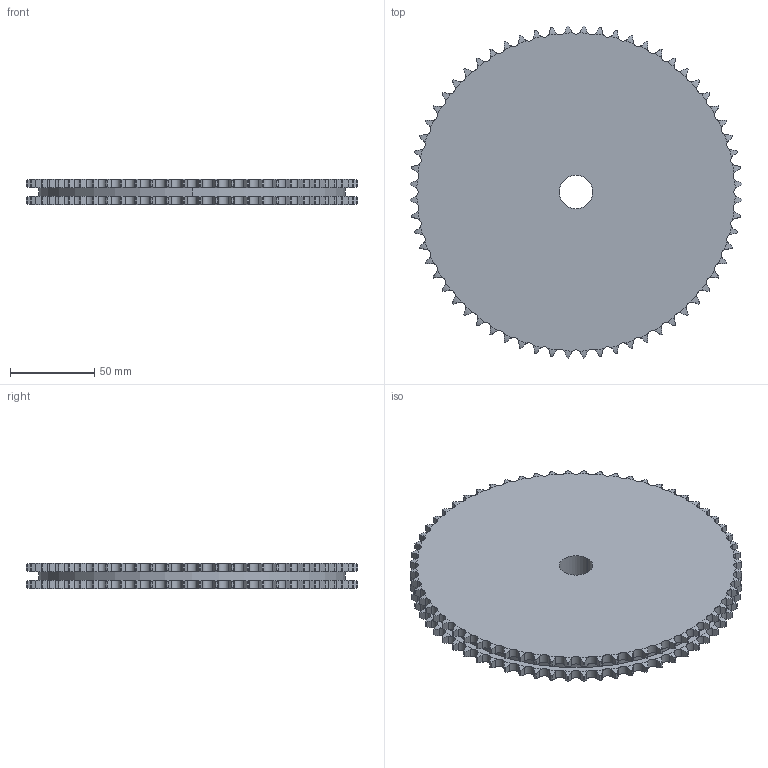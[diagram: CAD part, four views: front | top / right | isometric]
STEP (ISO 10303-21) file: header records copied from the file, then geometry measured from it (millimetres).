
FILE_DESCRIPTION((''),'2;1');
FILE_NAME('500-102-0064_PRT','2021-02-12T',('Brieden'),('Brieden'),'PRO/ENGINEER BY PARAMETRIC TECHNOLOGY CORPORATION, 2010160','PRO/ENGINEER BY PARAMETRIC TECHNOLOGY CORPORATION, 2010160','');
FILE_SCHEMA(('AUTOMOTIVE_DESIGN { 1 0 10303 214 1 1 1 1 }'));
Length unit declared in the file: millimetre
Products named in the file (1): 500-102-0064_PRT
Bounding box: 197.34 x 197.34 x 15.4 mm (x, y, z)
Volume: 424170.7 mm3; surface area: 75083.2 mm2
Topology: 1 solids, 1 shells, 776 faces, 2316 edges, 1544 vertices
Faces by surface type: cylinder 516, torus 256, plane 4
Entity records: 37740 total; most frequent: CARTESIAN_POINT 11109, ORIENTED_EDGE 4632, DIRECTION 3620, PRESENTATION_STYLE_ASSIGNMENT 2317, STYLED_ITEM 2317, CURVE_STYLE 2316, EDGE_CURVE 2316, AXIS2_PLACEMENT_3D 1552
